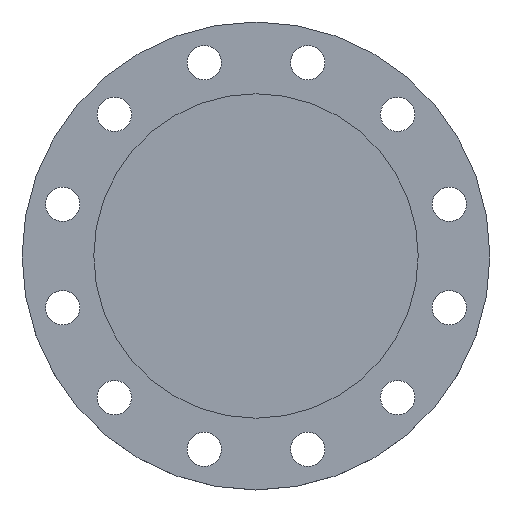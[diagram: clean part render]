
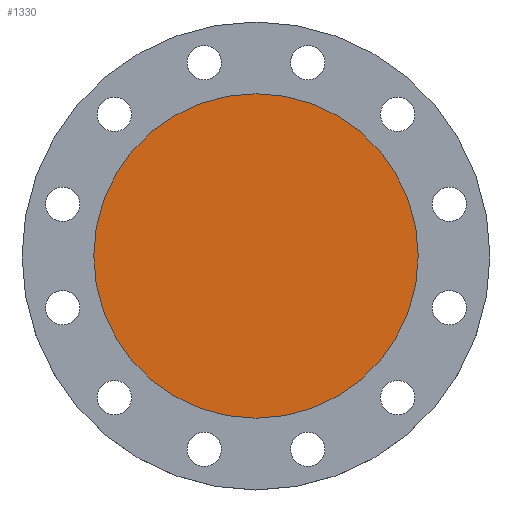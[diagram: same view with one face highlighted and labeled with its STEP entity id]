
A CAD part, top view. The second image highlights one B-rep face of the part: STEP entity #1330.
In plain terms, the highlighted planar face has unit normal (0, 0, 1).
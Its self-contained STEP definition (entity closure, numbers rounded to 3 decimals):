
#45 = DIRECTION ( 'NONE',  ( 1., 0., 0. ) ) ;
#46 = DIRECTION ( 'NONE',  ( 0., 0., 1. ) ) ;
#47 = CARTESIAN_POINT ( 'NONE',  ( 0., 0., 0. ) ) ;
#48 = PLANE ( 'NONE',  #507 ) ;
#49 = FACE_OUTER_BOUND ( 'NONE', #1028, .T. ) ;
#64 = EDGE_CURVE ( 'NONE', #1215, #1205, #1170, .T. ) ;
#168 = CARTESIAN_POINT ( 'NONE',  ( -156., 0., 0. ) ) ;
#173 = DIRECTION ( 'NONE',  ( -1., 0., 0. ) ) ;
#174 = DIRECTION ( 'NONE',  ( 0., 0., -1. ) ) ;
#175 = CARTESIAN_POINT ( 'NONE',  ( 0., 0., 0. ) ) ;
#181 = CARTESIAN_POINT ( 'NONE',  ( 156., 0., 0. ) ) ;
#507 = AXIS2_PLACEMENT_3D ( 'NONE', #47, #46, #45 ) ;
#533 = AXIS2_PLACEMENT_3D ( 'NONE', #1115, #789, #788 ) ;
#788 = DIRECTION ( 'NONE',  ( -1., 0., 0. ) ) ;
#789 = DIRECTION ( 'NONE',  ( 0., 0., -1. ) ) ;
#944 = ORIENTED_EDGE ( 'NONE', *, *, #64, .F. ) ;
#945 = ORIENTED_EDGE ( 'NONE', *, *, #1211, .F. ) ;
#1028 = EDGE_LOOP ( 'NONE', ( #944, #945 ) ) ;
#1115 = CARTESIAN_POINT ( 'NONE',  ( 0., 0., 0. ) ) ;
#1170 = CIRCLE ( 'NONE', #533, 156. ) ;
#1183 = AXIS2_PLACEMENT_3D ( 'NONE', #175, #174, #173 ) ;
#1199 = CIRCLE ( 'NONE', #1183, 156. ) ;
#1205 = VERTEX_POINT ( 'NONE', #181 ) ;
#1211 = EDGE_CURVE ( 'NONE', #1205, #1215, #1199, .T. ) ;
#1215 = VERTEX_POINT ( 'NONE', #168 ) ;
#1330 = ADVANCED_FACE ( 'NONE', ( #49 ), #48, .T. ) ;
